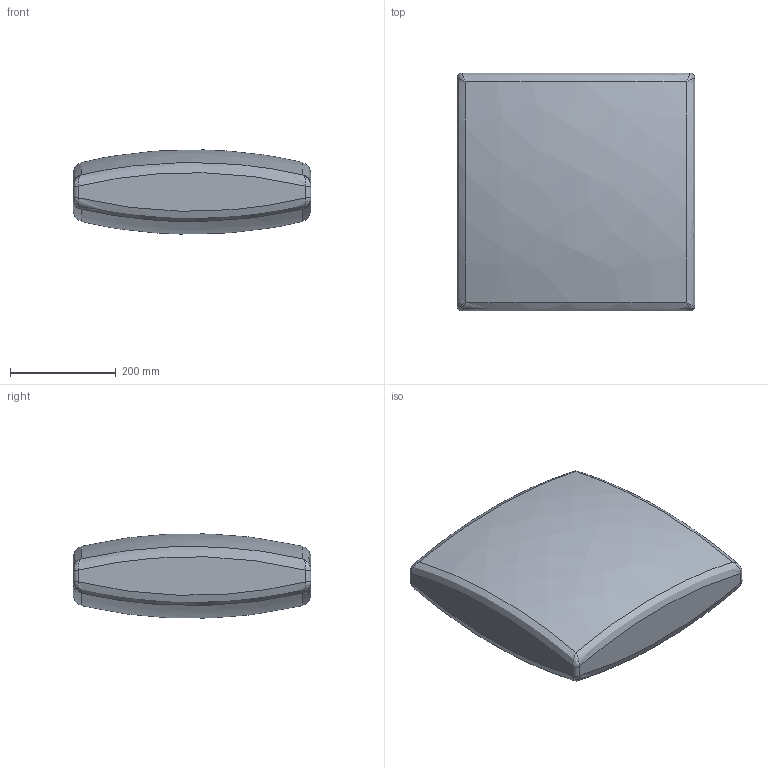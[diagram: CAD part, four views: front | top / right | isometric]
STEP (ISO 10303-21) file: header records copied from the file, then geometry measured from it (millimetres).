
FILE_DESCRIPTION (( 'STEP AP214' ), '1' );
FILE_NAME ('ACC99001-00-00.STEP', '2024-09-16T07:37:51', ( '' ), ( '' ), 'SwSTEP 2.0', 'SolidWorks 2020', '' );
FILE_SCHEMA (( 'AUTOMOTIVE_DESIGN' ));
Length unit declared in the file: millimetre
Products named in the file (1): ACC99001-00-00
Bounding box: 450 x 450 x 158.99 mm (x, y, z)
Volume: 24840106.6 mm3; surface area: 550358.1 mm2
Topology: 1 solids, 1 shells, 34 faces, 80 edges, 40 vertices
Faces by surface type: bspline 26, plane 4, cylinder 4
Entity records: 3310 total; most frequent: CARTESIAN_POINT 2725, ORIENTED_EDGE 144, EDGE_CURVE 72, DIRECTION 66, B_SPLINE_CURVE_WITH_KNOTS 40, VERTEX_POINT 40, ADVANCED_FACE 34, FACE_OUTER_BOUND 34
